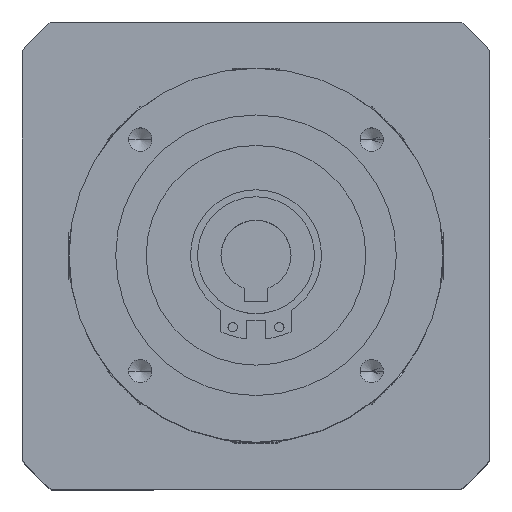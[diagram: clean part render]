
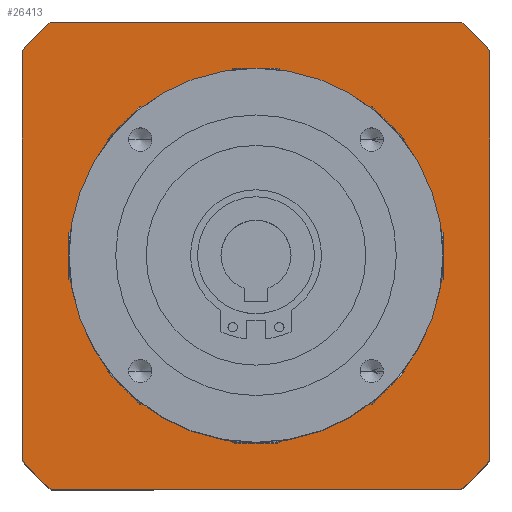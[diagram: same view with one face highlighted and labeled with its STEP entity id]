
A CAD part, top view. The second image highlights one B-rep face of the part: STEP entity #26413.
In plain terms, the highlighted planar face has unit normal (0, 0, 1).
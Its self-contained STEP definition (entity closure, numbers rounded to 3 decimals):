
#168 = ORIENTED_EDGE ( 'NONE', *, *, #251, .F. ) ;
#251 = EDGE_CURVE ( 'NONE', #41739, #40737, #6826, .T. ) ;
#333 = PLANE ( 'NONE',  #33844 ) ;
#933 = CARTESIAN_POINT ( 'NONE',  ( 0., 0., -12. ) ) ;
#1062 = CARTESIAN_POINT ( 'NONE',  ( 43.843, 50., -12. ) ) ;
#1244 = DIRECTION ( 'NONE',  ( 1., 0., 0. ) ) ;
#1738 = EDGE_CURVE ( 'NONE', #20389, #41739, #46077, .T. ) ;
#2301 = ORIENTED_EDGE ( 'NONE', *, *, #18217, .F. ) ;
#3153 = DIRECTION ( 'NONE',  ( 1., 0., 0. ) ) ;
#3274 = CARTESIAN_POINT ( 'NONE',  ( -50., -43.843, -12. ) ) ;
#4209 = DIRECTION ( 'NONE',  ( -1., 0., 0. ) ) ;
#4318 = ORIENTED_EDGE ( 'NONE', *, *, #9286, .F. ) ;
#4612 = DIRECTION ( 'NONE',  ( 0., -1., 0. ) ) ;
#4634 = DIRECTION ( 'NONE',  ( 1., 0., 0. ) ) ;
#5055 = CARTESIAN_POINT ( 'NONE',  ( 0., -50., -12. ) ) ;
#5853 = ORIENTED_EDGE ( 'NONE', *, *, #8331, .F. ) ;
#6352 = CARTESIAN_POINT ( 'NONE',  ( 50., -43.843, -12. ) ) ;
#6826 = CIRCLE ( 'NONE', #19689, 66.5 ) ;
#8291 = ORIENTED_EDGE ( 'NONE', *, *, #28324, .F. ) ;
#8331 = EDGE_CURVE ( 'NONE', #40737, #36861, #34733, .T. ) ;
#8486 = CARTESIAN_POINT ( 'NONE',  ( 36., 0., -12. ) ) ;
#9286 = EDGE_CURVE ( 'NONE', #42062, #20389, #9426, .T. ) ;
#9426 = CIRCLE ( 'NONE', #37781, 66.5 ) ;
#10998 = EDGE_LOOP ( 'NONE', ( #13422, #16608 ) ) ;
#12045 = CARTESIAN_POINT ( 'NONE',  ( 50., 36., -12. ) ) ;
#12266 = VERTEX_POINT ( 'NONE', #40548 ) ;
#12425 = CIRCLE ( 'NONE', #37810, 66.5 ) ;
#13422 = ORIENTED_EDGE ( 'NONE', *, *, #33592, .F. ) ;
#14294 = ORIENTED_EDGE ( 'NONE', *, *, #1738, .F. ) ;
#14531 = DIRECTION ( 'NONE',  ( 0., 0., -1. ) ) ;
#15096 = EDGE_CURVE ( 'NONE', #47884, #16052, #16017, .T. ) ;
#15957 = DIRECTION ( 'NONE',  ( 0., 0., -1. ) ) ;
#16017 = CIRCLE ( 'NONE', #32726, 36. ) ;
#16052 = VERTEX_POINT ( 'NONE', #8486 ) ;
#16376 = AXIS2_PLACEMENT_3D ( 'NONE', #20828, #46703, #24591 ) ;
#16492 = DIRECTION ( 'NONE',  ( -1., 0., 0. ) ) ;
#16608 = ORIENTED_EDGE ( 'NONE', *, *, #15096, .F. ) ;
#18217 = EDGE_CURVE ( 'NONE', #36861, #12266, #30433, .T. ) ;
#18491 = DIRECTION ( 'NONE',  ( 0., 1., 0. ) ) ;
#18512 = EDGE_CURVE ( 'NONE', #38194, #37808, #12425, .T. ) ;
#18544 = LINE ( 'NONE', #12045, #35938 ) ;
#18910 = CARTESIAN_POINT ( 'NONE',  ( 0., 36., -12. ) ) ;
#19689 = AXIS2_PLACEMENT_3D ( 'NONE', #32474, #31949, #32538 ) ;
#20389 = VERTEX_POINT ( 'NONE', #29570 ) ;
#20828 = CARTESIAN_POINT ( 'NONE',  ( 0., 0., -12. ) ) ;
#23408 = EDGE_CURVE ( 'NONE', #12266, #38194, #41934, .T. ) ;
#24591 = DIRECTION ( 'NONE',  ( 1., 0., 0. ) ) ;
#25329 = DIRECTION ( 'NONE',  ( 0., 0., 1. ) ) ;
#25656 = FACE_OUTER_BOUND ( 'NONE', #31866, .T. ) ;
#26406 = DIRECTION ( 'NONE',  ( 0., 0., -1. ) ) ;
#26413 = ADVANCED_FACE ( 'NONE', ( #25656, #35476 ), #333, .F. ) ;
#26832 = DIRECTION ( 'NONE',  ( 0., 0., 1. ) ) ;
#28324 = EDGE_CURVE ( 'NONE', #37808, #42062, #18544, .T. ) ;
#29570 = CARTESIAN_POINT ( 'NONE',  ( 43.843, -50., -12. ) ) ;
#29750 = ORIENTED_EDGE ( 'NONE', *, *, #23408, .F. ) ;
#30433 = CIRCLE ( 'NONE', #16376, 66.5 ) ;
#31866 = EDGE_LOOP ( 'NONE', ( #43465, #29750, #2301, #5853, #168, #14294, #4318, #8291 ) ) ;
#31949 = DIRECTION ( 'NONE',  ( 0., 0., -1. ) ) ;
#32474 = CARTESIAN_POINT ( 'NONE',  ( 0., 0., -12. ) ) ;
#32538 = DIRECTION ( 'NONE',  ( 1., 0., 0. ) ) ;
#32726 = AXIS2_PLACEMENT_3D ( 'NONE', #933, #26832, #4634 ) ;
#33354 = VECTOR ( 'NONE', #1244, 1000. ) ;
#33592 = EDGE_CURVE ( 'NONE', #16052, #47884, #47272, .T. ) ;
#33602 = VECTOR ( 'NONE', #18491, 1000. ) ;
#33844 = AXIS2_PLACEMENT_3D ( 'NONE', #18910, #26406, #4209 ) ;
#34577 = CARTESIAN_POINT ( 'NONE',  ( -43.843, -50., -12. ) ) ;
#34733 = LINE ( 'NONE', #44378, #33602 ) ;
#35476 = FACE_BOUND ( 'NONE', #10998, .T. ) ;
#35938 = VECTOR ( 'NONE', #4612, 1000. ) ;
#36279 = VECTOR ( 'NONE', #16492, 1000. ) ;
#36289 = CARTESIAN_POINT ( 'NONE',  ( -36., 0., -12. ) ) ;
#36723 = CARTESIAN_POINT ( 'NONE',  ( 0., 0., -12. ) ) ;
#36861 = VERTEX_POINT ( 'NONE', #36925 ) ;
#36925 = CARTESIAN_POINT ( 'NONE',  ( -50., 43.843, -12. ) ) ;
#37781 = AXIS2_PLACEMENT_3D ( 'NONE', #36723, #14531, #40396 ) ;
#37808 = VERTEX_POINT ( 'NONE', #42160 ) ;
#37810 = AXIS2_PLACEMENT_3D ( 'NONE', #38132, #15957, #41834 ) ;
#38132 = CARTESIAN_POINT ( 'NONE',  ( 0., 0., -12. ) ) ;
#38194 = VERTEX_POINT ( 'NONE', #1062 ) ;
#38268 = CARTESIAN_POINT ( 'NONE',  ( 0., 50., -12. ) ) ;
#38600 = AXIS2_PLACEMENT_3D ( 'NONE', #47424, #25329, #3153 ) ;
#40396 = DIRECTION ( 'NONE',  ( 1., 0., 0. ) ) ;
#40548 = CARTESIAN_POINT ( 'NONE',  ( -43.843, 50., -12. ) ) ;
#40737 = VERTEX_POINT ( 'NONE', #3274 ) ;
#41739 = VERTEX_POINT ( 'NONE', #34577 ) ;
#41834 = DIRECTION ( 'NONE',  ( 1., 0., 0. ) ) ;
#41934 = LINE ( 'NONE', #38268, #33354 ) ;
#42062 = VERTEX_POINT ( 'NONE', #6352 ) ;
#42160 = CARTESIAN_POINT ( 'NONE',  ( 50., 43.843, -12. ) ) ;
#43465 = ORIENTED_EDGE ( 'NONE', *, *, #18512, .F. ) ;
#44378 = CARTESIAN_POINT ( 'NONE',  ( -50., 36., -12. ) ) ;
#46077 = LINE ( 'NONE', #5055, #36279 ) ;
#46703 = DIRECTION ( 'NONE',  ( 0., 0., -1. ) ) ;
#47272 = CIRCLE ( 'NONE', #38600, 36. ) ;
#47424 = CARTESIAN_POINT ( 'NONE',  ( 0., 0., -12. ) ) ;
#47884 = VERTEX_POINT ( 'NONE', #36289 ) ;
